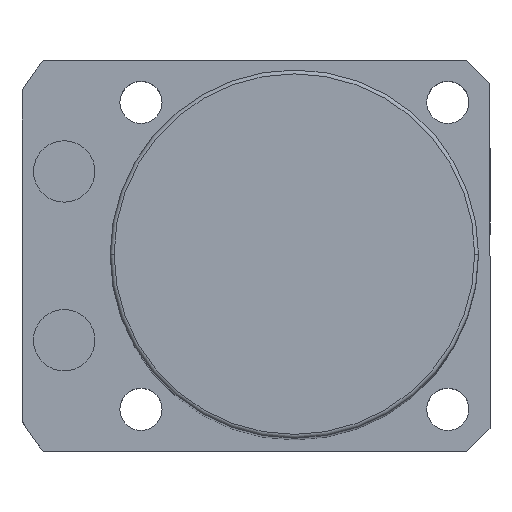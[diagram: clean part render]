
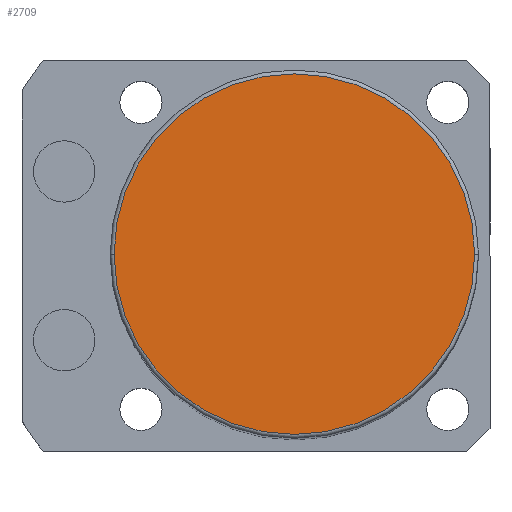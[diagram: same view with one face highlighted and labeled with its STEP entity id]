
A CAD part, top view. The second image highlights one B-rep face of the part: STEP entity #2709.
In plain terms, the highlighted planar face has unit normal (0, 0, 1).
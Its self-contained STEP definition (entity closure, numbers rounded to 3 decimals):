
#164 = EDGE_CURVE ( 'NONE', #3315, #4788, #6188, .T. ) ;
#1033 = CARTESIAN_POINT ( 'NONE',  ( -23.5, 0., 141. ) ) ;
#1076 = CARTESIAN_POINT ( 'NONE',  ( 23.5, 0., 141. ) ) ;
#1413 = EDGE_CURVE ( 'NONE', #4788, #3315, #1931, .T. ) ;
#1664 = AXIS2_PLACEMENT_3D ( 'NONE', #2129, #3700, #3204 ) ;
#1931 = CIRCLE ( 'NONE', #1664, 23.5 ) ;
#2129 = CARTESIAN_POINT ( 'NONE',  ( 0., 0., 141. ) ) ;
#2361 = DIRECTION ( 'NONE',  ( 0., 0., 1. ) ) ;
#2709 = ADVANCED_FACE ( 'NONE', ( #3031 ), #4994, .T. ) ;
#2742 = AXIS2_PLACEMENT_3D ( 'NONE', #3969, #2361, #5896 ) ;
#2829 = AXIS2_PLACEMENT_3D ( 'NONE', #3943, #3874, #4468 ) ;
#3031 = FACE_OUTER_BOUND ( 'NONE', #4058, .T. ) ;
#3204 = DIRECTION ( 'NONE',  ( 1., 0., 0. ) ) ;
#3315 = VERTEX_POINT ( 'NONE', #1076 ) ;
#3700 = DIRECTION ( 'NONE',  ( 0., 0., 1. ) ) ;
#3874 = DIRECTION ( 'NONE',  ( 0., 0., 1. ) ) ;
#3943 = CARTESIAN_POINT ( 'NONE',  ( 0., 0., 141. ) ) ;
#3969 = CARTESIAN_POINT ( 'NONE',  ( 0., 0., 141. ) ) ;
#4058 = EDGE_LOOP ( 'NONE', ( #5845, #5877 ) ) ;
#4468 = DIRECTION ( 'NONE',  ( 1., 0., 0. ) ) ;
#4788 = VERTEX_POINT ( 'NONE', #1033 ) ;
#4994 = PLANE ( 'NONE',  #2742 ) ;
#5845 = ORIENTED_EDGE ( 'NONE', *, *, #164, .T. ) ;
#5877 = ORIENTED_EDGE ( 'NONE', *, *, #1413, .T. ) ;
#5896 = DIRECTION ( 'NONE',  ( 1., 0., 0. ) ) ;
#6188 = CIRCLE ( 'NONE', #2829, 23.5 ) ;
